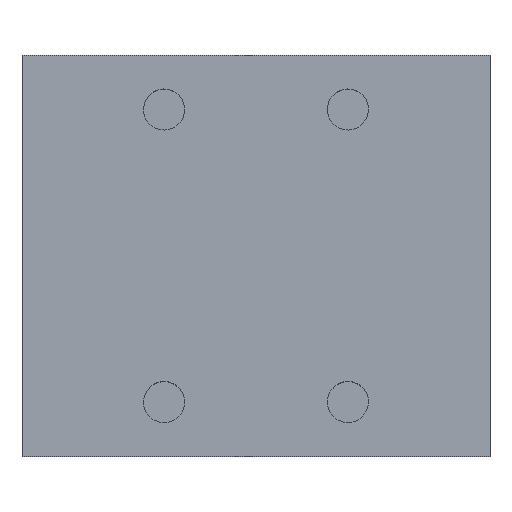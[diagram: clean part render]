
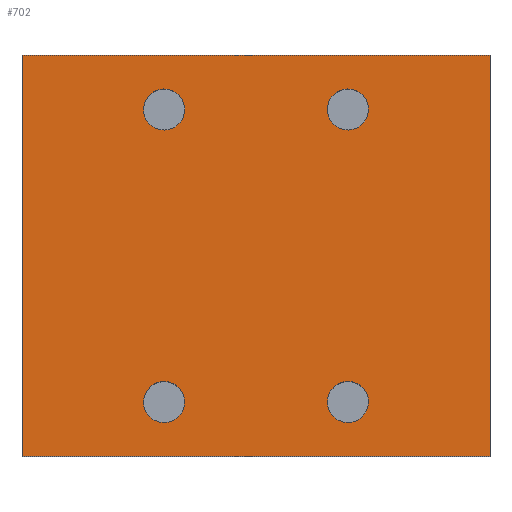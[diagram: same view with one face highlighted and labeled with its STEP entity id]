
A CAD part, top view. The second image highlights one B-rep face of the part: STEP entity #702.
In plain terms, the highlighted planar face has unit normal (0, 0, 1).
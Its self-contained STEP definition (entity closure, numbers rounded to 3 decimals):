
#87=CARTESIAN_POINT('Vertex',(-56.,24.,17.)) ;
#90=CARTESIAN_POINT('Line Origine',(-28.,24.,17.)) ;
#94=CARTESIAN_POINT('Vertex',(0.,24.,17.)) ;
#139=CARTESIAN_POINT('Line Origine',(-56.,0.,17.)) ;
#143=CARTESIAN_POINT('Vertex',(-56.,-24.,17.)) ;
#368=CARTESIAN_POINT('Axis2P3D Location',(-39.,-17.5,17.)) ;
#372=CARTESIAN_POINT('Vertex',(-36.842,-18.679,17.)) ;
#374=CARTESIAN_POINT('Vertex',(-41.158,-16.321,17.)) ;
#394=CARTESIAN_POINT('Axis2P3D Location',(-39.,-17.5,17.)) ;
#411=CARTESIAN_POINT('Axis2P3D Location',(-17.,-17.5,17.)) ;
#415=CARTESIAN_POINT('Vertex',(-14.842,-18.679,17.)) ;
#417=CARTESIAN_POINT('Vertex',(-19.158,-16.321,17.)) ;
#437=CARTESIAN_POINT('Axis2P3D Location',(-17.,-17.5,17.)) ;
#454=CARTESIAN_POINT('Axis2P3D Location',(-39.,17.5,17.)) ;
#458=CARTESIAN_POINT('Vertex',(-36.842,16.321,17.)) ;
#460=CARTESIAN_POINT('Vertex',(-41.158,18.679,17.)) ;
#480=CARTESIAN_POINT('Axis2P3D Location',(-39.,17.5,17.)) ;
#497=CARTESIAN_POINT('Axis2P3D Location',(-17.,17.5,17.)) ;
#501=CARTESIAN_POINT('Vertex',(-14.842,16.321,17.)) ;
#503=CARTESIAN_POINT('Vertex',(-19.158,18.679,17.)) ;
#523=CARTESIAN_POINT('Axis2P3D Location',(-17.,17.5,17.)) ;
#635=CARTESIAN_POINT('Vertex',(0.,-24.,17.)) ;
#638=CARTESIAN_POINT('Line Origine',(-28.,-24.,17.)) ;
#655=CARTESIAN_POINT('Line Origine',(0.,0.,17.)) ;
#675=CARTESIAN_POINT('Axis2P3D Location',(0.,-24.,17.)) ;
#91=DIRECTION('Vector Direction',(-1.,0.,0.)) ;
#140=DIRECTION('Vector Direction',(0.,1.,0.)) ;
#369=DIRECTION('Axis2P3D Direction',(0.,0.,-1.)) ;
#395=DIRECTION('Axis2P3D Direction',(0.,0.,-1.)) ;
#412=DIRECTION('Axis2P3D Direction',(0.,0.,-1.)) ;
#438=DIRECTION('Axis2P3D Direction',(0.,0.,-1.)) ;
#455=DIRECTION('Axis2P3D Direction',(0.,0.,-1.)) ;
#481=DIRECTION('Axis2P3D Direction',(0.,0.,-1.)) ;
#498=DIRECTION('Axis2P3D Direction',(0.,0.,-1.)) ;
#524=DIRECTION('Axis2P3D Direction',(0.,0.,-1.)) ;
#639=DIRECTION('Vector Direction',(-1.,0.,0.)) ;
#656=DIRECTION('Vector Direction',(0.,1.,0.)) ;
#676=DIRECTION('Axis2P3D Direction',(0.,-0.,1.)) ;
#677=DIRECTION('Axis2P3D XDirection',(0.,1.,0.)) ;
#370=AXIS2_PLACEMENT_3D('Circle Axis2P3D',#368,#369,$) ;
#396=AXIS2_PLACEMENT_3D('Circle Axis2P3D',#394,#395,$) ;
#413=AXIS2_PLACEMENT_3D('Circle Axis2P3D',#411,#412,$) ;
#439=AXIS2_PLACEMENT_3D('Circle Axis2P3D',#437,#438,$) ;
#456=AXIS2_PLACEMENT_3D('Circle Axis2P3D',#454,#455,$) ;
#482=AXIS2_PLACEMENT_3D('Circle Axis2P3D',#480,#481,$) ;
#499=AXIS2_PLACEMENT_3D('Circle Axis2P3D',#497,#498,$) ;
#525=AXIS2_PLACEMENT_3D('Circle Axis2P3D',#523,#524,$) ;
#678=AXIS2_PLACEMENT_3D('Plane Axis2P3D',#675,#676,#677) ;
#681=ORIENTED_EDGE('',*,*,#145,.T.) ;
#682=ORIENTED_EDGE('',*,*,#642,.F.) ;
#683=ORIENTED_EDGE('',*,*,#659,.F.) ;
#684=ORIENTED_EDGE('',*,*,#96,.T.) ;
#687=ORIENTED_EDGE('',*,*,#527,.F.) ;
#688=ORIENTED_EDGE('',*,*,#505,.F.) ;
#691=ORIENTED_EDGE('',*,*,#484,.F.) ;
#692=ORIENTED_EDGE('',*,*,#462,.F.) ;
#695=ORIENTED_EDGE('',*,*,#441,.F.) ;
#696=ORIENTED_EDGE('',*,*,#419,.F.) ;
#699=ORIENTED_EDGE('',*,*,#398,.F.) ;
#700=ORIENTED_EDGE('',*,*,#376,.F.) ;
#689=FACE_BOUND('',#686,.T.) ;
#693=FACE_BOUND('',#690,.T.) ;
#697=FACE_BOUND('',#694,.T.) ;
#701=FACE_BOUND('',#698,.T.) ;
#92=VECTOR('Line Direction',#91,1.) ;
#141=VECTOR('Line Direction',#140,1.) ;
#640=VECTOR('Line Direction',#639,1.) ;
#657=VECTOR('Line Direction',#656,1.) ;
#702=ADVANCED_FACE('PartBody',(#685,#689,#693,#697,#701),#679,.T.) ;
#371=CIRCLE('generated circle',#370,2.459) ;
#397=CIRCLE('generated circle',#396,2.459) ;
#414=CIRCLE('generated circle',#413,2.459) ;
#440=CIRCLE('generated circle',#439,2.459) ;
#457=CIRCLE('generated circle',#456,2.459) ;
#483=CIRCLE('generated circle',#482,2.459) ;
#500=CIRCLE('generated circle',#499,2.459) ;
#526=CIRCLE('generated circle',#525,2.459) ;
#96=EDGE_CURVE('',#95,#88,#93,.T.) ;
#145=EDGE_CURVE('',#88,#144,#142,.F.) ;
#376=EDGE_CURVE('',#373,#375,#371,.F.) ;
#398=EDGE_CURVE('',#375,#373,#397,.F.) ;
#419=EDGE_CURVE('',#416,#418,#414,.F.) ;
#441=EDGE_CURVE('',#418,#416,#440,.F.) ;
#462=EDGE_CURVE('',#459,#461,#457,.F.) ;
#484=EDGE_CURVE('',#461,#459,#483,.F.) ;
#505=EDGE_CURVE('',#502,#504,#500,.F.) ;
#527=EDGE_CURVE('',#504,#502,#526,.F.) ;
#642=EDGE_CURVE('',#636,#144,#641,.T.) ;
#659=EDGE_CURVE('',#95,#636,#658,.F.) ;
#680=EDGE_LOOP('',(#681,#682,#683,#684)) ;
#686=EDGE_LOOP('',(#687,#688)) ;
#690=EDGE_LOOP('',(#691,#692)) ;
#694=EDGE_LOOP('',(#695,#696)) ;
#698=EDGE_LOOP('',(#699,#700)) ;
#685=FACE_OUTER_BOUND('',#680,.T.) ;
#93=LINE('Line',#90,#92) ;
#142=LINE('Line',#139,#141) ;
#641=LINE('Line',#638,#640) ;
#658=LINE('Line',#655,#657) ;
#679=PLANE('',#678) ;
#88=VERTEX_POINT('',#87) ;
#95=VERTEX_POINT('',#94) ;
#144=VERTEX_POINT('',#143) ;
#373=VERTEX_POINT('',#372) ;
#375=VERTEX_POINT('',#374) ;
#416=VERTEX_POINT('',#415) ;
#418=VERTEX_POINT('',#417) ;
#459=VERTEX_POINT('',#458) ;
#461=VERTEX_POINT('',#460) ;
#502=VERTEX_POINT('',#501) ;
#504=VERTEX_POINT('',#503) ;
#636=VERTEX_POINT('',#635) ;
